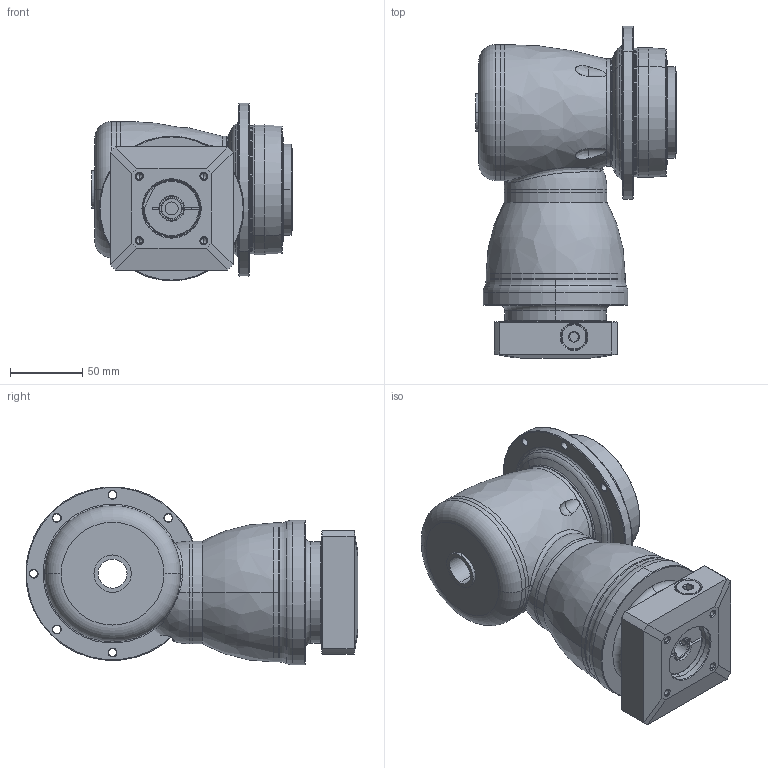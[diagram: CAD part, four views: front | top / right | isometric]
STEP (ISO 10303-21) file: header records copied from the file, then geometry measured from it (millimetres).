
FILE_DESCRIPTION((''),'2;1');
FILE_NAME('KH090_1ST_14-P0409310101_ASM','2016-06-07T',('d01943'),(''),'PRO/ENGINEER BY PARAMETRIC TECHNOLOGY CORPORATION, 2008410','PRO/ENGINEER BY PARAMETRIC TECHNOLOGY CORPORATION, 2008410','');
FILE_SCHEMA(('CONFIG_CONTROL_DESIGN'));
Length unit declared in the file: millimetre
Products named in the file (11): P1008300002_AF1; P1816300001_AF1; P1817300001_AF1; P1315300001_AF1; P1007300001; P1318300101; P0409310101; P0503300006; P0912301001; 21711412017; KH090_1ST_14-P0409310101_ASM
Assembly tree (10 placements, depth 2):
  KH090_1ST_14-P0409310101_ASM
    P1008300002_AF1
    P1816300001_AF1
    P1817300001_AF1
    P1315300001_AF1
    P1007300001
    P1318300101
    P0409310101
    P0503300006
    P0912301001
    21711412017
Bounding box: 138.8 x 229.27 x 122.77 mm (x, y, z)
Volume: 1491962.6 mm3; surface area: 222304.9 mm2
Topology: 11 solids, 11 shells, 522 faces, 1181 edges, 696 vertices
Faces by surface type: cylinder 185, cone 140, plane 93, torus 68, bspline 34, sphere 2
Entity records: 21092 total; most frequent: CARTESIAN_POINT 9258, DIRECTION 2632, ORIENTED_EDGE 2272, EDGE_CURVE 1136, AXIS2_PLACEMENT_3D 1123, VERTEX_POINT 689, CIRCLE 614, EDGE_LOOP 611
